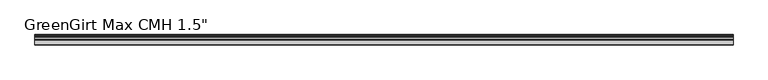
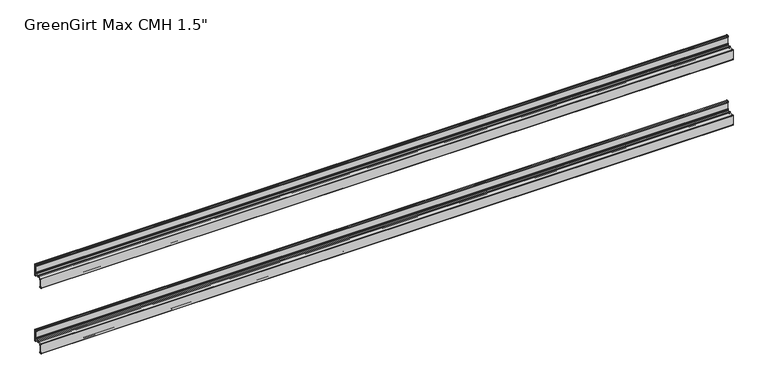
"""IFC4 building model written with IfcOpenShell, lengths in millimetres: fastener geometry."""

from ifc_helpers import new_model, si_unit, frame, origin, place, context, project, spatial, polyline, circle_curve, outline, extrude, source, transform, mapped, element, save
from ifc_brep_helpers import plane_surface, cylinder_surface, revolved_surface, advanced_brep


def fastener_09b3d739(model_context):
    return source(origin(), model_context, "Body", "SolidModel", [
        advanced_brep(
        [(2540.1186361, -3.556, 1390.269), (2540.1186361, -3.556, 1359.281), (2540.1186361, -5.2832, 1359.281), (2540.1186361, -5.2832, 1363.472), (2540.1186361, -7.3152, 1363.472), (2540.1186361, -7.3152, 1359.281), (2540.1186361, -8.0772, 1358.519), (2540.1186361, -17.7601563, 1358.519), (2540.1186361, -17.7601563, 1359.3674433), (2540.1186361, -20.4288947, 1359.3674433), (2540.1186361, -20.4288947, 1358.519), (2540.1186361, -37.3379766, 1358.519), (2540.1186361, -38.0999766, 1357.757), (2540.1186361, -38.1, 1321.5196758), (2540.1186361, -37.3379766, 1320.8), (2540.1186361, -33.7057766, 1320.8), (2540.1186361, -31.6737766, 1322.832), (2540.1186361, -31.6737766, 1325.118), (2540.1186361, -33.7057766, 1325.118), (2540.1186361, -33.7057766, 1324.102), (2540.1186361, -35.4329766, 1324.102), (2540.1186361, -35.4329766, 1355.09), (2540.1186361, -33.7057766, 1355.09), (2540.1186361, -33.7057766, 1350.899), (2540.1186361, -31.6737766, 1350.899), (2540.1186361, -31.6737766, 1355.09), (2540.1186361, -30.9117766, 1355.852), (2540.1186361, -20.4279799, 1355.852), (2540.1186361, -20.4279799, 1355.0030993), (2540.1186361, -17.7601563, 1355.0030993), (2540.1186361, -17.7601563, 1355.852), (2540.1186361, -3.429, 1355.852), (2540.1186361, -2.667, 1355.09), (2540.1186361, -2.667, 1348.994), (2540.1186361, 0.0, 1348.994), (2540.1186361, 0.0, 1392.809), (2540.1186361, -0.762, 1393.571), (2540.1186361, -5.2832, 1393.571), (2540.1186361, -7.3152, 1391.539), (2540.1186361, -7.3152, 1389.253), (2540.1186361, -5.2832, 1389.253), (2540.1186361, -5.2832, 1390.269), (0.0, -3.556, 1390.269), (0.0, -5.2832, 1390.269), (0.0, -5.2832, 1389.253), (0.0, -7.3152, 1389.253), (0.0, -7.3152, 1391.539), (0.0, -5.2832, 1393.571), (0.0, -0.762, 1393.571), (0.0, 0.0, 1392.809), (0.0, 0.0, 1348.994), (0.0, -2.667, 1348.994), (0.0, -2.667, 1355.09), (0.0, -3.429, 1355.852), (0.0, -17.7601563, 1355.852), (0.0, -17.7601563, 1355.0030993), (0.0, -20.4279799, 1355.0030993), (0.0, -20.4279799, 1355.852), (0.0, -30.9117766, 1355.852), (0.0, -31.6737766, 1355.09), (0.0, -31.6737766, 1350.899), (0.0, -33.7057766, 1350.899), (0.0, -33.7057766, 1355.09), (0.0, -35.4329766, 1355.09), (0.0, -35.4329766, 1324.102), (0.0, -33.7057766, 1324.102), (0.0, -33.7057766, 1325.118), (0.0, -31.6737766, 1325.118), (0.0, -31.6737766, 1322.832), (0.0, -33.7057766, 1320.8), (0.0, -37.3379766, 1320.8), (0.0, -38.0999766, 1321.562), (0.0, -38.1, 1357.6242174), (0.0, -37.3379766, 1358.519), (0.0, -20.4288947, 1358.519), (0.0, -20.4288947, 1359.3674433), (0.0, -17.7601563, 1359.3674433), (0.0, -17.7601563, 1358.519), (0.0, -8.0772, 1358.519), (0.0, -7.3152, 1359.281), (0.0, -7.3152, 1363.472), (0.0, -5.2832, 1363.472), (0.0, -5.2832, 1359.281), (0.0, -3.556, 1359.281)],
        [
            (0, 1),
            (1, 2, circle_curve(frame((2540.1186361, -4.4196, 1359.281), z_axis=(-1.0, 0.0, 0.0), x_axis=(0.0, 1.0, 0.0)), 0.8636)),
            (2, 3),
            (3, 4, circle_curve(frame((2540.1186361, -6.2992, 1363.472), z_axis=(1.0, 0.0, 0.0), x_axis=(0.0, 1.0, 0.0)), 1.016)),
            (4, 5),
            (5, 6, circle_curve(frame((2540.1186361, -8.0772, 1359.281), z_axis=(-1.0, 0.0, 0.0), x_axis=(0.0, 1.0, 0.0)), 0.762)),
            (6, 7),
            (7, 8),
            (8, 9, circle_curve(frame((2540.1186361, -19.0945255, 1359.3674433), z_axis=(1.0, 0.0, 0.0), x_axis=(0.0, 1.0, 0.0)), 1.3343692)),
            (9, 10),
            (10, 11),
            (11, 12, circle_curve(frame((2540.1186361, -37.3379766, 1357.757), z_axis=(1.0, 0.0, 0.0), x_axis=(0.0, 1.0, 0.0)), 0.762)),
            (12, 13),
            (13, 14, circle_curve(frame((2540.1186361, -37.3379766, 1321.562), z_axis=(1.0, 0.0, 0.0), x_axis=(0.0, 1.0, 0.0)), 0.762)),
            (14, 15),
            (15, 16, circle_curve(frame((2540.1186361, -33.7057766, 1322.832), z_axis=(1.0, 0.0, 0.0), x_axis=(0.0, 1.0, 0.0)), 2.032)),
            (16, 17),
            (17, 18, circle_curve(frame((2540.1186361, -32.6897766, 1325.118), z_axis=(1.0, 0.0, 0.0), x_axis=(0.0, 1.0, 0.0)), 1.016)),
            (18, 19),
            (19, 20, circle_curve(frame((2540.1186361, -34.5693766, 1324.102), z_axis=(-1.0, 0.0, 0.0), x_axis=(0.0, 1.0, 0.0)), 0.8636)),
            (20, 21),
            (21, 22, circle_curve(frame((2540.1186361, -34.5693766, 1355.09), z_axis=(-1.0, 0.0, 0.0), x_axis=(0.0, 1.0, 0.0)), 0.8636)),
            (22, 23),
            (23, 24, circle_curve(frame((2540.1186361, -32.6897766, 1350.899), z_axis=(1.0, 0.0, 0.0), x_axis=(0.0, 1.0, 0.0)), 1.016)),
            (24, 25),
            (25, 26, circle_curve(frame((2540.1186361, -30.9117766, 1355.09), z_axis=(-1.0, 0.0, 0.0), x_axis=(0.0, 1.0, 0.0)), 0.762)),
            (26, 27),
            (27, 28),
            (28, 29, circle_curve(frame((2540.1186361, -19.0940681, 1355.0030993), z_axis=(1.0, 0.0, 0.0), x_axis=(0.0, 1.0, 0.0)), 1.3339118)),
            (29, 30),
            (30, 31),
            (31, 32, circle_curve(frame((2540.1186361, -3.429, 1355.09), z_axis=(-1.0, 0.0, 0.0), x_axis=(0.0, 1.0, 0.0)), 0.762)),
            (32, 33),
            (33, 34, circle_curve(frame((2540.1186361, -1.3335, 1348.994), z_axis=(1.0, 0.0, 0.0), x_axis=(0.0, 1.0, 0.0)), 1.3335)),
            (34, 35),
            (35, 36, circle_curve(frame((2540.1186361, -0.762, 1392.809), z_axis=(1.0, 0.0, 0.0), x_axis=(0.0, 1.0, 0.0)), 0.762)),
            (36, 37),
            (37, 38, circle_curve(frame((2540.1186361, -5.2832, 1391.539), z_axis=(1.0, 0.0, 0.0), x_axis=(0.0, 1.0, 0.0)), 2.032)),
            (38, 39),
            (39, 40, circle_curve(frame((2540.1186361, -6.2992, 1389.253), z_axis=(1.0, 0.0, 0.0), x_axis=(0.0, 1.0, 0.0)), 1.016)),
            (40, 41),
            (41, 0, circle_curve(frame((2540.1186361, -4.4196, 1390.269), z_axis=(-1.0, 0.0, 0.0), x_axis=(0.0, 1.0, 0.0)), 0.8636)),
            (42, 43, circle_curve(frame((0.0, -4.4196, 1390.269), z_axis=(1.0, 0.0, 0.0), x_axis=(0.0, 1.0, 0.0)), 0.8636)),
            (43, 44),
            (44, 45, circle_curve(frame((0.0, -6.2992, 1389.253), z_axis=(-1.0, 0.0, 0.0), x_axis=(0.0, 1.0, 0.0)), 1.016)),
            (45, 46),
            (46, 47, circle_curve(frame((0.0, -5.2832, 1391.539), z_axis=(-1.0, 0.0, 0.0), x_axis=(0.0, 1.0, 0.0)), 2.032)),
            (47, 48),
            (48, 49, circle_curve(frame((0.0, -0.762, 1392.809), z_axis=(-1.0, 0.0, 0.0), x_axis=(0.0, 1.0, 0.0)), 0.762)),
            (49, 50),
            (50, 51, circle_curve(frame((0.0, -1.3335, 1348.994), z_axis=(-1.0, 0.0, 0.0), x_axis=(0.0, 1.0, 0.0)), 1.3335)),
            (51, 52),
            (52, 53, circle_curve(frame((0.0, -3.429, 1355.09), z_axis=(1.0, 0.0, 0.0), x_axis=(0.0, 1.0, 0.0)), 0.762)),
            (53, 54),
            (54, 55),
            (55, 56, circle_curve(frame((0.0, -19.0940681, 1355.0030993), z_axis=(-1.0, 0.0, 0.0), x_axis=(0.0, 1.0, 0.0)), 1.3339118)),
            (56, 57),
            (57, 58),
            (58, 59, circle_curve(frame((0.0, -30.9117766, 1355.09), z_axis=(1.0, 0.0, 0.0), x_axis=(0.0, 1.0, 0.0)), 0.762)),
            (59, 60),
            (60, 61, circle_curve(frame((0.0, -32.6897766, 1350.899), z_axis=(-1.0, 0.0, 0.0), x_axis=(0.0, 1.0, 0.0)), 1.016)),
            (61, 62),
            (62, 63, circle_curve(frame((0.0, -34.5693766, 1355.09), z_axis=(1.0, 0.0, 0.0), x_axis=(0.0, 1.0, 0.0)), 0.8636)),
            (63, 64),
            (64, 65, circle_curve(frame((0.0, -34.5693766, 1324.102), z_axis=(1.0, 0.0, 0.0), x_axis=(0.0, 1.0, 0.0)), 0.8636)),
            (65, 66),
            (66, 67, circle_curve(frame((0.0, -32.6897766, 1325.118), z_axis=(-1.0, 0.0, 0.0), x_axis=(0.0, 1.0, 0.0)), 1.016)),
            (67, 68),
            (68, 69, circle_curve(frame((0.0, -33.7057766, 1322.832), z_axis=(-1.0, 0.0, 0.0), x_axis=(0.0, 1.0, 0.0)), 2.032)),
            (69, 70),
            (70, 71, circle_curve(frame((0.0, -37.3379766, 1321.562), z_axis=(-1.0, 0.0, 0.0), x_axis=(0.0, 1.0, 0.0)), 0.762)),
            (71, 72),
            (72, 73, circle_curve(frame((0.0, -37.3379766, 1357.757), z_axis=(-1.0, 0.0, 0.0), x_axis=(0.0, 1.0, 0.0)), 0.762)),
            (73, 74),
            (74, 75),
            (75, 76, circle_curve(frame((0.0, -19.0945255, 1359.3674433), z_axis=(-1.0, 0.0, 0.0), x_axis=(0.0, 1.0, 0.0)), 1.3343692)),
            (76, 77),
            (77, 78),
            (78, 79, circle_curve(frame((0.0, -8.0772, 1359.281), z_axis=(1.0, 0.0, 0.0), x_axis=(0.0, 1.0, 0.0)), 0.762)),
            (79, 80),
            (80, 81, circle_curve(frame((0.0, -6.2992, 1363.472), z_axis=(-1.0, 0.0, 0.0), x_axis=(0.0, 1.0, 0.0)), 1.016)),
            (81, 82),
            (82, 83, circle_curve(frame((0.0, -4.4196, 1359.281), z_axis=(1.0, 0.0, 0.0), x_axis=(0.0, 1.0, 0.0)), 0.8636)),
            (83, 42),
            (0, 42),
            (83, 1),
            (82, 2),
            (81, 3),
            (80, 4),
            (79, 5),
            (78, 6),
            (77, 7),
            (76, 8),
            (75, 9),
            (74, 10),
            (73, 11),
            (72, 12),
            (71, 13),
            (70, 14),
            (69, 15),
            (68, 16),
            (67, 17),
            (66, 18),
            (65, 19),
            (64, 20),
            (63, 21),
            (62, 22),
            (61, 23),
            (60, 24),
            (59, 25),
            (58, 26),
            (57, 27),
            (56, 28),
            (55, 29),
            (54, 30),
            (53, 31),
            (52, 32),
            (51, 33),
            (50, 34),
            (49, 35),
            (48, 36),
            (47, 37),
            (46, 38),
            (45, 39),
            (44, 40),
            (43, 41),
        ],
        [
            plane_surface(frame((2540.1186361, -3.556, 1359.281), z_axis=(1.0, 0.0, 0.0), x_axis=(0.0, 0.0, -1.0))),
            plane_surface(frame((0.0, -3.556, 1359.281), z_axis=(-1.0, 0.0, 0.0), x_axis=(0.0, 0.0, 1.0))),
            plane_surface(frame((2540.1186361, -3.556, 1390.269), z_axis=(0.0, -1.0, 0.0), x_axis=(-1.0, 0.0, 0.0))),
            revolved_surface(polyline([(0.0, -3.556, 1359.281), (2540.1186361, -3.556, 1359.281)]), (0.0, -4.4196, 1359.281), (-1.0, 0.0, 0.0)),
            plane_surface(frame((2540.1186361, -5.2832, 1359.281), z_axis=(0.0, 1.0, 0.0), x_axis=(-1.0, 0.0, 0.0))),
            cylinder_surface(frame((0.0, -6.2992, 1363.472), z_axis=(1.0, 0.0, 0.0), x_axis=(0.0, 1.0, 0.0)), 1.016),
            plane_surface(frame((2540.1186361, -7.3152, 1363.472), z_axis=(0.0, -1.0, 0.0), x_axis=(-1.0, 0.0, 0.0))),
            revolved_surface(polyline([(0.0, -7.315199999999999, 1359.281), (2540.1186361, -7.315199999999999, 1359.281)]), (0.0, -8.0772, 1359.281), (-1.0, 0.0, 0.0)),
            plane_surface(frame((2540.1186361, -8.0772, 1358.519), z_axis=(0.0, 0.0, 1.0), x_axis=(-1.0, 0.0, 0.0))),
            plane_surface(frame((2540.1186361, -17.7601563, 1358.519), z_axis=(0.0, 1.0, 0.0), x_axis=(-1.0, 0.0, 0.0))),
            cylinder_surface(frame((0.0, -19.0945255, 1359.3674433), z_axis=(1.0, 0.0, 0.0), x_axis=(0.0, 1.0, 0.0)), 1.3343692),
            plane_surface(frame((2540.1186361, -20.4288947, 1359.3674433), z_axis=(0.0, -1.0, 0.0), x_axis=(-1.0, 0.0, 0.0))),
            plane_surface(frame((2540.1186361, -20.4288947, 1358.519), z_axis=(0.0, 0.0, 1.0), x_axis=(-1.0, 0.0, 0.0))),
            cylinder_surface(frame((0.0, -37.3379766, 1357.757), z_axis=(1.0, 0.0, 0.0), x_axis=(0.0, 1.0, 0.0)), 0.762),
            plane_surface(frame((2540.1186361, -38.1, 1357.6242174), z_axis=(0.0, -1.0, 0.0), x_axis=(-1.0, 0.0, 0.0))),
            cylinder_surface(frame((0.0, -37.3379766, 1321.562), z_axis=(1.0, 0.0, 0.0), x_axis=(0.0, 1.0, 0.0)), 0.762),
            plane_surface(frame((2540.1186361, -37.3379766, 1320.8), z_axis=(0.0, 1.080720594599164e-12, -1.0), x_axis=(-1.0, 0.0, 0.0))),
            cylinder_surface(frame((0.0, -33.7057766, 1322.832), z_axis=(1.0, 0.0, 0.0), x_axis=(0.0, 1.0, 0.0)), 2.032),
            plane_surface(frame((2540.1186361, -31.6737766, 1322.832), z_axis=(0.0, 1.0, 0.0), x_axis=(-1.0, 0.0, 0.0))),
            cylinder_surface(frame((0.0, -32.6897766, 1325.118), z_axis=(1.0, 0.0, 0.0), x_axis=(0.0, 1.0, 0.0)), 1.016),
            plane_surface(frame((2540.1186361, -33.7057766, 1325.118), z_axis=(0.0, -1.0, 0.0), x_axis=(-1.0, 0.0, 0.0))),
            revolved_surface(polyline([(0.0, -33.7057766, 1324.102), (2540.1186361, -33.7057766, 1324.102)]), (0.0, -34.5693766, 1324.102), (-1.0, 0.0, 0.0)),
            plane_surface(frame((2540.1186361, -35.4329766, 1324.102), z_axis=(0.0, 1.0, 0.0), x_axis=(-1.0, 0.0, 0.0))),
            revolved_surface(polyline([(0.0, -33.7057766, 1355.09), (2540.1186361, -33.7057766, 1355.09)]), (0.0, -34.5693766, 1355.09), (-1.0, 0.0, 0.0)),
            plane_surface(frame((2540.1186361, -33.7057766, 1355.09), z_axis=(0.0, -1.0, 0.0), x_axis=(-1.0, 0.0, 0.0))),
            cylinder_surface(frame((0.0, -32.6897766, 1350.899), z_axis=(1.0, 0.0, 0.0), x_axis=(0.0, 1.0, 0.0)), 1.016),
            plane_surface(frame((2540.1186361, -31.6737766, 1350.899), z_axis=(0.0, 1.0, 0.0), x_axis=(-1.0, 0.0, 0.0))),
            revolved_surface(polyline([(0.0, -30.1497766, 1355.09), (2540.1186361, -30.1497766, 1355.09)]), (0.0, -30.9117766, 1355.09), (-1.0, 0.0, 0.0)),
            plane_surface(frame((2540.1186361, -30.9117766, 1355.852), z_axis=(0.0, 0.0, -1.0), x_axis=(-1.0, 0.0, 0.0))),
            plane_surface(frame((2540.1186361, -20.4279799, 1355.852), z_axis=(0.0, -1.0, 0.0), x_axis=(-1.0, 0.0, 0.0))),
            cylinder_surface(frame((0.0, -19.0940681, 1355.0030993), z_axis=(1.0, 0.0, 0.0), x_axis=(0.0, 1.0, 0.0)), 1.3339118),
            plane_surface(frame((2540.1186361, -17.7601563, 1355.0030993), z_axis=(0.0, 1.0, 0.0), x_axis=(-1.0, 0.0, 0.0))),
            plane_surface(frame((2540.1186361, -17.7601563, 1355.852), z_axis=(0.0, 0.0, -1.0), x_axis=(-1.0, 0.0, 0.0))),
            revolved_surface(polyline([(0.0, -2.667, 1355.09), (2540.1186361, -2.667, 1355.09)]), (0.0, -3.429, 1355.09), (-1.0, 0.0, 0.0)),
            plane_surface(frame((2540.1186361, -2.667, 1355.09), z_axis=(0.0, -1.0, 0.0), x_axis=(-1.0, 0.0, 0.0))),
            cylinder_surface(frame((0.0, -1.3335, 1348.994), z_axis=(1.0, 0.0, 0.0), x_axis=(0.0, 1.0, 0.0)), 1.3335),
            plane_surface(frame((2540.1186361, 0.0, 1348.994), z_axis=(0.0, 1.0, 0.0), x_axis=(-1.0, 0.0, 0.0))),
            cylinder_surface(frame((0.0, -0.762, 1392.809), z_axis=(1.0, 0.0, 0.0), x_axis=(0.0, 1.0, 0.0)), 0.762),
            plane_surface(frame((2540.1186361, -0.762, 1393.571), z_axis=(0.0, 1.6915308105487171e-12, 1.0), x_axis=(-1.0, 0.0, 0.0))),
            cylinder_surface(frame((0.0, -5.2832, 1391.539), z_axis=(1.0, 0.0, 0.0), x_axis=(0.0, 1.0, 0.0)), 2.032),
            plane_surface(frame((2540.1186361, -7.3152, 1391.539), z_axis=(0.0, -1.0, 0.0), x_axis=(-1.0, 0.0, 0.0))),
            cylinder_surface(frame((0.0, -6.2992, 1389.253), z_axis=(1.0, 0.0, 0.0), x_axis=(0.0, 1.0, 0.0)), 1.016),
            plane_surface(frame((2540.1186361, -5.2832, 1389.253), z_axis=(0.0, 1.0, 0.0), x_axis=(-1.0, 0.0, 0.0))),
            revolved_surface(polyline([(0.0, -3.556, 1390.269), (2540.1186361, -3.556, 1390.269)]), (0.0, -4.4196, 1390.269), (-1.0, 0.0, 0.0)),
        ],
        [
            (0, [[1, 2, 3, 4, 5, 6, 7, 8, 9, 10, 11, 12, 13, 14, 15, 16, 17, 18, 19, 20, 21, 22, 23, 24, 25, 26, 27, 28, 29, 30, 31, 32, 33, 34, 35, 36, 37, 38, 39, 40, 41, 42]]),
            (1, [[43, 44, 45, 46, 47, 48, 49, 50, 51, 52, 53, 54, 55, 56, 57, 58, 59, 60, 61, 62, 63, 64, 65, 66, 67, 68, 69, 70, 71, 72, 73, 74, 75, 76, 77, 78, 79, 80, 81, 82, 83, 84]]),
            (2, [[-1, 85, -84, 86]]),
            (3, [[-2, -86, -83, 87]]),
            (4, [[-3, -87, -82, 88]]),
            (5, [[-4, -88, -81, 89]]),
            (6, [[-5, -89, -80, 90]]),
            (7, [[-6, -90, -79, 91]]),
            (8, [[-7, -91, -78, 92]]),
            (9, [[-8, -92, -77, 93]]),
            (10, [[-9, -93, -76, 94]]),
            (11, [[-10, -94, -75, 95]]),
            (12, [[-11, -95, -74, 96]]),
            (13, [[-12, -96, -73, 97]]),
            (14, [[-13, -97, -72, 98]]),
            (15, [[-14, -98, -71, 99]]),
            (16, [[-15, -99, -70, 100]]),
            (17, [[-16, -100, -69, 101]]),
            (18, [[-17, -101, -68, 102]]),
            (19, [[-18, -102, -67, 103]]),
            (20, [[-19, -103, -66, 104]]),
            (21, [[-20, -104, -65, 105]]),
            (22, [[-21, -105, -64, 106]]),
            (23, [[-22, -106, -63, 107]]),
            (24, [[-23, -107, -62, 108]]),
            (25, [[-24, -108, -61, 109]]),
            (26, [[-25, -109, -60, 110]]),
            (27, [[-26, -110, -59, 111]]),
            (28, [[-27, -111, -58, 112]]),
            (29, [[-28, -112, -57, 113]]),
            (30, [[-29, -113, -56, 114]]),
            (31, [[-30, -114, -55, 115]]),
            (32, [[-31, -115, -54, 116]]),
            (33, [[-32, -116, -53, 117]]),
            (34, [[-33, -117, -52, 118]]),
            (35, [[-34, -118, -51, 119]]),
            (36, [[-35, -119, -50, 120]]),
            (37, [[-36, -120, -49, 121]]),
            (38, [[-37, -121, -48, 122]]),
            (39, [[-38, -122, -47, 123]]),
            (40, [[-39, -123, -46, 124]]),
            (41, [[-40, -124, -45, 125]]),
            (42, [[-41, -125, -44, 126]]),
            (43, [[-42, -126, -43, -85]]),
        ],
    ),
        extrude(outline(polyline([(2540.1186361, -3.556), (2540.1186361, -5.2832), (0.0, -5.2832), (0.0, -3.556), (2540.1186361, -3.556)])), frame((0.0, 0.0, 1359.281), z_axis=(0.0, 0.0, 1.0), x_axis=(1.0, 0.0, 0.0)), (0.0, 0.0, 1.0), 30.988),
        extrude(outline(polyline([(2540.1186361, -33.7057766), (2540.1186361, -35.4329766), (0.0, -35.4329766), (0.0, -33.7057766), (2540.1186361, -33.7057766)])), frame((0.0, 0.0, 1324.102), z_axis=(0.0, 0.0, 1.0), x_axis=(1.0, 0.0, 0.0)), (0.0, 0.0, 1.0), 30.988),
        advanced_brep(
        [(2540.1186361, -3.556, 1136.269), (2540.1186361, -3.556, 1105.281), (2540.1186361, -5.2832, 1105.281), (2540.1186361, -5.2832, 1109.472), (2540.1186361, -7.3152, 1109.472), (2540.1186361, -7.3152, 1105.281), (2540.1186361, -8.0772, 1104.519), (2540.1186361, -17.7601563, 1104.519), (2540.1186361, -17.7601563, 1105.3674433), (2540.1186361, -20.4288947, 1105.3674433), (2540.1186361, -20.4288947, 1104.519), (2540.1186361, -37.3379766, 1104.519), (2540.1186361, -38.0999766, 1103.757), (2540.1186361, -38.1, 1067.5196758), (2540.1186361, -37.3379766, 1066.8), (2540.1186361, -33.7057766, 1066.8), (2540.1186361, -31.6737766, 1068.832), (2540.1186361, -31.6737766, 1071.118), (2540.1186361, -33.7057766, 1071.118), (2540.1186361, -33.7057766, 1070.102), (2540.1186361, -35.4329766, 1070.102), (2540.1186361, -35.4329766, 1101.09), (2540.1186361, -33.7057766, 1101.09), (2540.1186361, -33.7057766, 1096.899), (2540.1186361, -31.6737766, 1096.899), (2540.1186361, -31.6737766, 1101.09), (2540.1186361, -30.9117766, 1101.852), (2540.1186361, -20.4279799, 1101.852), (2540.1186361, -20.4279799, 1101.0030993), (2540.1186361, -17.7601563, 1101.0030993), (2540.1186361, -17.7601563, 1101.852), (2540.1186361, -3.429, 1101.852), (2540.1186361, -2.667, 1101.09), (2540.1186361, -2.667, 1094.994), (2540.1186361, 0.0, 1094.994), (2540.1186361, 0.0, 1138.809), (2540.1186361, -0.762, 1139.571), (2540.1186361, -5.2832, 1139.571), (2540.1186361, -7.3152, 1137.539), (2540.1186361, -7.3152, 1135.253), (2540.1186361, -5.2832, 1135.253), (2540.1186361, -5.2832, 1136.269), (0.0, -3.556, 1136.269), (0.0, -5.2832, 1136.269), (0.0, -5.2832, 1135.253), (0.0, -7.3152, 1135.253), (0.0, -7.3152, 1137.539), (0.0, -5.2832, 1139.571), (0.0, -0.762, 1139.571), (0.0, 0.0, 1138.809), (0.0, 0.0, 1094.994), (0.0, -2.667, 1094.994), (0.0, -2.667, 1101.09), (0.0, -3.429, 1101.852), (0.0, -17.7601563, 1101.852), (0.0, -17.7601563, 1101.0030993), (0.0, -20.4279799, 1101.0030993), (0.0, -20.4279799, 1101.852), (0.0, -30.9117766, 1101.852), (0.0, -31.6737766, 1101.09), (0.0, -31.6737766, 1096.899), (0.0, -33.7057766, 1096.899), (0.0, -33.7057766, 1101.09), (0.0, -35.4329766, 1101.09), (0.0, -35.4329766, 1070.102), (0.0, -33.7057766, 1070.102), (0.0, -33.7057766, 1071.118), (0.0, -31.6737766, 1071.118), (0.0, -31.6737766, 1068.832), (0.0, -33.7057766, 1066.8), (0.0, -37.3379766, 1066.8), (0.0, -38.0999766, 1067.562), (0.0, -38.1, 1103.6242174), (0.0, -37.3379766, 1104.519), (0.0, -20.4288947, 1104.519), (0.0, -20.4288947, 1105.3674433), (0.0, -17.7601563, 1105.3674433), (0.0, -17.7601563, 1104.519), (0.0, -8.0772, 1104.519), (0.0, -7.3152, 1105.281), (0.0, -7.3152, 1109.472), (0.0, -5.2832, 1109.472), (0.0, -5.2832, 1105.281), (0.0, -3.556, 1105.281)],
        [
            (0, 1),
            (1, 2, circle_curve(frame((2540.1186361, -4.4196, 1105.281), z_axis=(-1.0, 0.0, 0.0), x_axis=(0.0, 1.0, 0.0)), 0.8636)),
            (2, 3),
            (3, 4, circle_curve(frame((2540.1186361, -6.2992, 1109.472), z_axis=(1.0, 0.0, 0.0), x_axis=(0.0, 1.0, 0.0)), 1.016)),
            (4, 5),
            (5, 6, circle_curve(frame((2540.1186361, -8.0772, 1105.281), z_axis=(-1.0, 0.0, 0.0), x_axis=(0.0, 1.0, 0.0)), 0.762)),
            (6, 7),
            (7, 8),
            (8, 9, circle_curve(frame((2540.1186361, -19.0945255, 1105.3674433), z_axis=(1.0, 0.0, 0.0), x_axis=(0.0, 1.0, 0.0)), 1.3343692)),
            (9, 10),
            (10, 11),
            (11, 12, circle_curve(frame((2540.1186361, -37.3379766, 1103.757), z_axis=(1.0, 0.0, 0.0), x_axis=(0.0, 1.0, 0.0)), 0.762)),
            (12, 13),
            (13, 14, circle_curve(frame((2540.1186361, -37.3379766, 1067.562), z_axis=(1.0, 0.0, 0.0), x_axis=(0.0, 1.0, 0.0)), 0.762)),
            (14, 15),
            (15, 16, circle_curve(frame((2540.1186361, -33.7057766, 1068.832), z_axis=(1.0, 0.0, 0.0), x_axis=(0.0, 1.0, 0.0)), 2.032)),
            (16, 17),
            (17, 18, circle_curve(frame((2540.1186361, -32.6897766, 1071.118), z_axis=(1.0, 0.0, 0.0), x_axis=(0.0, 1.0, 0.0)), 1.016)),
            (18, 19),
            (19, 20, circle_curve(frame((2540.1186361, -34.5693766, 1070.102), z_axis=(-1.0, 0.0, 0.0), x_axis=(0.0, 1.0, 0.0)), 0.8636)),
            (20, 21),
            (21, 22, circle_curve(frame((2540.1186361, -34.5693766, 1101.09), z_axis=(-1.0, 0.0, 0.0), x_axis=(0.0, 1.0, 0.0)), 0.8636)),
            (22, 23),
            (23, 24, circle_curve(frame((2540.1186361, -32.6897766, 1096.899), z_axis=(1.0, 0.0, 0.0), x_axis=(0.0, 1.0, 0.0)), 1.016)),
            (24, 25),
            (25, 26, circle_curve(frame((2540.1186361, -30.9117766, 1101.09), z_axis=(-1.0, 0.0, 0.0), x_axis=(0.0, 1.0, 0.0)), 0.762)),
            (26, 27),
            (27, 28),
            (28, 29, circle_curve(frame((2540.1186361, -19.0940681, 1101.0030993), z_axis=(1.0, 0.0, 0.0), x_axis=(0.0, 1.0, 0.0)), 1.3339118)),
            (29, 30),
            (30, 31),
            (31, 32, circle_curve(frame((2540.1186361, -3.429, 1101.09), z_axis=(-1.0, 0.0, 0.0), x_axis=(0.0, 1.0, 0.0)), 0.762)),
            (32, 33),
            (33, 34, circle_curve(frame((2540.1186361, -1.3335, 1094.994), z_axis=(1.0, 0.0, 0.0), x_axis=(0.0, 1.0, 0.0)), 1.3335)),
            (34, 35),
            (35, 36, circle_curve(frame((2540.1186361, -0.762, 1138.809), z_axis=(1.0, 0.0, 0.0), x_axis=(0.0, 1.0, 0.0)), 0.762)),
            (36, 37),
            (37, 38, circle_curve(frame((2540.1186361, -5.2832, 1137.539), z_axis=(1.0, 0.0, 0.0), x_axis=(0.0, 1.0, 0.0)), 2.032)),
            (38, 39),
            (39, 40, circle_curve(frame((2540.1186361, -6.2992, 1135.253), z_axis=(1.0, 0.0, 0.0), x_axis=(0.0, 1.0, 0.0)), 1.016)),
            (40, 41),
            (41, 0, circle_curve(frame((2540.1186361, -4.4196, 1136.269), z_axis=(-1.0, 0.0, 0.0), x_axis=(0.0, 1.0, 0.0)), 0.8636)),
            (42, 43, circle_curve(frame((0.0, -4.4196, 1136.269), z_axis=(1.0, 0.0, 0.0), x_axis=(0.0, 1.0, 0.0)), 0.8636)),
            (43, 44),
            (44, 45, circle_curve(frame((0.0, -6.2992, 1135.253), z_axis=(-1.0, 0.0, 0.0), x_axis=(0.0, 1.0, 0.0)), 1.016)),
            (45, 46),
            (46, 47, circle_curve(frame((0.0, -5.2832, 1137.539), z_axis=(-1.0, 0.0, 0.0), x_axis=(0.0, 1.0, 0.0)), 2.032)),
            (47, 48),
            (48, 49, circle_curve(frame((0.0, -0.762, 1138.809), z_axis=(-1.0, 0.0, 0.0), x_axis=(0.0, 1.0, 0.0)), 0.762)),
            (49, 50),
            (50, 51, circle_curve(frame((0.0, -1.3335, 1094.994), z_axis=(-1.0, 0.0, 0.0), x_axis=(0.0, 1.0, 0.0)), 1.3335)),
            (51, 52),
            (52, 53, circle_curve(frame((0.0, -3.429, 1101.09), z_axis=(1.0, 0.0, 0.0), x_axis=(0.0, 1.0, 0.0)), 0.762)),
            (53, 54),
            (54, 55),
            (55, 56, circle_curve(frame((0.0, -19.0940681, 1101.0030993), z_axis=(-1.0, 0.0, 0.0), x_axis=(0.0, 1.0, 0.0)), 1.3339118)),
            (56, 57),
            (57, 58),
            (58, 59, circle_curve(frame((0.0, -30.9117766, 1101.09), z_axis=(1.0, 0.0, 0.0), x_axis=(0.0, 1.0, 0.0)), 0.762)),
            (59, 60),
            (60, 61, circle_curve(frame((0.0, -32.6897766, 1096.899), z_axis=(-1.0, 0.0, 0.0), x_axis=(0.0, 1.0, 0.0)), 1.016)),
            (61, 62),
            (62, 63, circle_curve(frame((0.0, -34.5693766, 1101.09), z_axis=(1.0, 0.0, 0.0), x_axis=(0.0, 1.0, 0.0)), 0.8636)),
            (63, 64),
            (64, 65, circle_curve(frame((0.0, -34.5693766, 1070.102), z_axis=(1.0, 0.0, 0.0), x_axis=(0.0, 1.0, 0.0)), 0.8636)),
            (65, 66),
            (66, 67, circle_curve(frame((0.0, -32.6897766, 1071.118), z_axis=(-1.0, 0.0, 0.0), x_axis=(0.0, 1.0, 0.0)), 1.016)),
            (67, 68),
            (68, 69, circle_curve(frame((0.0, -33.7057766, 1068.832), z_axis=(-1.0, 0.0, 0.0), x_axis=(0.0, 1.0, 0.0)), 2.032)),
            (69, 70),
            (70, 71, circle_curve(frame((0.0, -37.3379766, 1067.562), z_axis=(-1.0, 0.0, 0.0), x_axis=(0.0, 1.0, 0.0)), 0.762)),
            (71, 72),
            (72, 73, circle_curve(frame((0.0, -37.3379766, 1103.757), z_axis=(-1.0, 0.0, 0.0), x_axis=(0.0, 1.0, 0.0)), 0.762)),
            (73, 74),
            (74, 75),
            (75, 76, circle_curve(frame((0.0, -19.0945255, 1105.3674433), z_axis=(-1.0, 0.0, 0.0), x_axis=(0.0, 1.0, 0.0)), 1.3343692)),
            (76, 77),
            (77, 78),
            (78, 79, circle_curve(frame((0.0, -8.0772, 1105.281), z_axis=(1.0, 0.0, 0.0), x_axis=(0.0, 1.0, 0.0)), 0.762)),
            (79, 80),
            (80, 81, circle_curve(frame((0.0, -6.2992, 1109.472), z_axis=(-1.0, 0.0, 0.0), x_axis=(0.0, 1.0, 0.0)), 1.016)),
            (81, 82),
            (82, 83, circle_curve(frame((0.0, -4.4196, 1105.281), z_axis=(1.0, 0.0, 0.0), x_axis=(0.0, 1.0, 0.0)), 0.8636)),
            (83, 42),
            (0, 42),
            (83, 1),
            (82, 2),
            (81, 3),
            (80, 4),
            (79, 5),
            (78, 6),
            (77, 7),
            (76, 8),
            (75, 9),
            (74, 10),
            (73, 11),
            (72, 12),
            (71, 13),
            (70, 14),
            (69, 15),
            (68, 16),
            (67, 17),
            (66, 18),
            (65, 19),
            (64, 20),
            (63, 21),
            (62, 22),
            (61, 23),
            (60, 24),
            (59, 25),
            (58, 26),
            (57, 27),
            (56, 28),
            (55, 29),
            (54, 30),
            (53, 31),
            (52, 32),
            (51, 33),
            (50, 34),
            (49, 35),
            (48, 36),
            (47, 37),
            (46, 38),
            (45, 39),
            (44, 40),
            (43, 41),
        ],
        [
            plane_surface(frame((2540.1186361, -3.556, 1105.281), z_axis=(1.0, 0.0, 0.0), x_axis=(0.0, 0.0, -1.0))),
            plane_surface(frame((0.0, -3.556, 1105.281), z_axis=(-1.0, 0.0, 0.0), x_axis=(0.0, 0.0, 1.0))),
            plane_surface(frame((2540.1186361, -3.556, 1136.269), z_axis=(0.0, -1.0, 0.0), x_axis=(-1.0, 0.0, 0.0))),
            revolved_surface(polyline([(0.0, -3.556, 1105.281), (2540.1186361, -3.556, 1105.281)]), (0.0, -4.4196, 1105.281), (-1.0, 0.0, 0.0)),
            plane_surface(frame((2540.1186361, -5.2832, 1105.281), z_axis=(0.0, 1.0, 0.0), x_axis=(-1.0, 0.0, 0.0))),
            cylinder_surface(frame((0.0, -6.2992, 1109.472), z_axis=(1.0, 0.0, 0.0), x_axis=(0.0, 1.0, 0.0)), 1.016),
            plane_surface(frame((2540.1186361, -7.3152, 1109.472), z_axis=(0.0, -1.0, 0.0), x_axis=(-1.0, 0.0, 0.0))),
            revolved_surface(polyline([(0.0, -7.315199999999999, 1105.281), (2540.1186361, -7.315199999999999, 1105.281)]), (0.0, -8.0772, 1105.281), (-1.0, 0.0, 0.0)),
            plane_surface(frame((2540.1186361, -8.0772, 1104.519), z_axis=(0.0, 0.0, 1.0), x_axis=(-1.0, 0.0, 0.0))),
            plane_surface(frame((2540.1186361, -17.7601563, 1104.519), z_axis=(0.0, 1.0, 0.0), x_axis=(-1.0, 0.0, 0.0))),
            cylinder_surface(frame((0.0, -19.0945255, 1105.3674433), z_axis=(1.0, 0.0, 0.0), x_axis=(0.0, 1.0, 0.0)), 1.3343692),
            plane_surface(frame((2540.1186361, -20.4288947, 1105.3674433), z_axis=(0.0, -1.0, 0.0), x_axis=(-1.0, 0.0, 0.0))),
            plane_surface(frame((2540.1186361, -20.4288947, 1104.519), z_axis=(0.0, 0.0, 1.0), x_axis=(-1.0, 0.0, 0.0))),
            cylinder_surface(frame((0.0, -37.3379766, 1103.757), z_axis=(1.0, 0.0, 0.0), x_axis=(0.0, 1.0, 0.0)), 0.762),
            plane_surface(frame((2540.1186361, -38.1, 1103.6242174), z_axis=(0.0, -1.0, 0.0), x_axis=(-1.0, 0.0, 0.0))),
            cylinder_surface(frame((0.0, -37.3379766, 1067.562), z_axis=(1.0, 0.0, 0.0), x_axis=(0.0, 1.0, 0.0)), 0.762),
            plane_surface(frame((2540.1186361, -37.3379766, 1066.8), z_axis=(0.0, 1.080720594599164e-12, -1.0), x_axis=(-1.0, 0.0, 0.0))),
            cylinder_surface(frame((0.0, -33.7057766, 1068.832), z_axis=(1.0, 0.0, 0.0), x_axis=(0.0, 1.0, 0.0)), 2.032),
            plane_surface(frame((2540.1186361, -31.6737766, 1068.832), z_axis=(0.0, 1.0, 0.0), x_axis=(-1.0, 0.0, 0.0))),
            cylinder_surface(frame((0.0, -32.6897766, 1071.118), z_axis=(1.0, 0.0, 0.0), x_axis=(0.0, 1.0, 0.0)), 1.016),
            plane_surface(frame((2540.1186361, -33.7057766, 1071.118), z_axis=(0.0, -1.0, 0.0), x_axis=(-1.0, 0.0, 0.0))),
            revolved_surface(polyline([(0.0, -33.7057766, 1070.102), (2540.1186361, -33.7057766, 1070.102)]), (0.0, -34.5693766, 1070.102), (-1.0, 0.0, 0.0)),
            plane_surface(frame((2540.1186361, -35.4329766, 1070.102), z_axis=(0.0, 1.0, 0.0), x_axis=(-1.0, 0.0, 0.0))),
            revolved_surface(polyline([(0.0, -33.7057766, 1101.09), (2540.1186361, -33.7057766, 1101.09)]), (0.0, -34.5693766, 1101.09), (-1.0, 0.0, 0.0)),
            plane_surface(frame((2540.1186361, -33.7057766, 1101.09), z_axis=(0.0, -1.0, 0.0), x_axis=(-1.0, 0.0, 0.0))),
            cylinder_surface(frame((0.0, -32.6897766, 1096.899), z_axis=(1.0, 0.0, 0.0), x_axis=(0.0, 1.0, 0.0)), 1.016),
            plane_surface(frame((2540.1186361, -31.6737766, 1096.899), z_axis=(0.0, 1.0, 0.0), x_axis=(-1.0, 0.0, 0.0))),
            revolved_surface(polyline([(0.0, -30.1497766, 1101.09), (2540.1186361, -30.1497766, 1101.09)]), (0.0, -30.9117766, 1101.09), (-1.0, 0.0, 0.0)),
            plane_surface(frame((2540.1186361, -30.9117766, 1101.852), z_axis=(0.0, 0.0, -1.0), x_axis=(-1.0, 0.0, 0.0))),
            plane_surface(frame((2540.1186361, -20.4279799, 1101.852), z_axis=(0.0, -1.0, 0.0), x_axis=(-1.0, 0.0, 0.0))),
            cylinder_surface(frame((0.0, -19.0940681, 1101.0030993), z_axis=(1.0, 0.0, 0.0), x_axis=(0.0, 1.0, 0.0)), 1.3339118),
            plane_surface(frame((2540.1186361, -17.7601563, 1101.0030993), z_axis=(0.0, 1.0, 0.0), x_axis=(-1.0, 0.0, 0.0))),
            plane_surface(frame((2540.1186361, -17.7601563, 1101.852), z_axis=(0.0, 0.0, -1.0), x_axis=(-1.0, 0.0, 0.0))),
            revolved_surface(polyline([(0.0, -2.667, 1101.09), (2540.1186361, -2.667, 1101.09)]), (0.0, -3.429, 1101.09), (-1.0, 0.0, 0.0)),
            plane_surface(frame((2540.1186361, -2.667, 1101.09), z_axis=(0.0, -1.0, 0.0), x_axis=(-1.0, 0.0, 0.0))),
            cylinder_surface(frame((0.0, -1.3335, 1094.994), z_axis=(1.0, 0.0, 0.0), x_axis=(0.0, 1.0, 0.0)), 1.3335),
            plane_surface(frame((2540.1186361, 0.0, 1094.994), z_axis=(0.0, 1.0, 0.0), x_axis=(-1.0, 0.0, 0.0))),
            cylinder_surface(frame((0.0, -0.762, 1138.809), z_axis=(1.0, 0.0, 0.0), x_axis=(0.0, 1.0, 0.0)), 0.762),
            plane_surface(frame((2540.1186361, -0.762, 1139.571), z_axis=(0.0, 1.6915308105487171e-12, 1.0), x_axis=(-1.0, 0.0, 0.0))),
            cylinder_surface(frame((0.0, -5.2832, 1137.539), z_axis=(1.0, 0.0, 0.0), x_axis=(0.0, 1.0, 0.0)), 2.032),
            plane_surface(frame((2540.1186361, -7.3152, 1137.539), z_axis=(0.0, -1.0, 0.0), x_axis=(-1.0, 0.0, 0.0))),
            cylinder_surface(frame((0.0, -6.2992, 1135.253), z_axis=(1.0, 0.0, 0.0), x_axis=(0.0, 1.0, 0.0)), 1.016),
            plane_surface(frame((2540.1186361, -5.2832, 1135.253), z_axis=(0.0, 1.0, 0.0), x_axis=(-1.0, 0.0, 0.0))),
            revolved_surface(polyline([(0.0, -3.556, 1136.269), (2540.1186361, -3.556, 1136.269)]), (0.0, -4.4196, 1136.269), (-1.0, 0.0, 0.0)),
        ],
        [
            (0, [[1, 2, 3, 4, 5, 6, 7, 8, 9, 10, 11, 12, 13, 14, 15, 16, 17, 18, 19, 20, 21, 22, 23, 24, 25, 26, 27, 28, 29, 30, 31, 32, 33, 34, 35, 36, 37, 38, 39, 40, 41, 42]]),
            (1, [[43, 44, 45, 46, 47, 48, 49, 50, 51, 52, 53, 54, 55, 56, 57, 58, 59, 60, 61, 62, 63, 64, 65, 66, 67, 68, 69, 70, 71, 72, 73, 74, 75, 76, 77, 78, 79, 80, 81, 82, 83, 84]]),
            (2, [[-1, 85, -84, 86]]),
            (3, [[-2, -86, -83, 87]]),
            (4, [[-3, -87, -82, 88]]),
            (5, [[-4, -88, -81, 89]]),
            (6, [[-5, -89, -80, 90]]),
            (7, [[-6, -90, -79, 91]]),
            (8, [[-7, -91, -78, 92]]),
            (9, [[-8, -92, -77, 93]]),
            (10, [[-9, -93, -76, 94]]),
            (11, [[-10, -94, -75, 95]]),
            (12, [[-11, -95, -74, 96]]),
            (13, [[-12, -96, -73, 97]]),
            (14, [[-13, -97, -72, 98]]),
            (15, [[-14, -98, -71, 99]]),
            (16, [[-15, -99, -70, 100]]),
            (17, [[-16, -100, -69, 101]]),
            (18, [[-17, -101, -68, 102]]),
            (19, [[-18, -102, -67, 103]]),
            (20, [[-19, -103, -66, 104]]),
            (21, [[-20, -104, -65, 105]]),
            (22, [[-21, -105, -64, 106]]),
            (23, [[-22, -106, -63, 107]]),
            (24, [[-23, -107, -62, 108]]),
            (25, [[-24, -108, -61, 109]]),
            (26, [[-25, -109, -60, 110]]),
            (27, [[-26, -110, -59, 111]]),
            (28, [[-27, -111, -58, 112]]),
            (29, [[-28, -112, -57, 113]]),
            (30, [[-29, -113, -56, 114]]),
            (31, [[-30, -114, -55, 115]]),
            (32, [[-31, -115, -54, 116]]),
            (33, [[-32, -116, -53, 117]]),
            (34, [[-33, -117, -52, 118]]),
            (35, [[-34, -118, -51, 119]]),
            (36, [[-35, -119, -50, 120]]),
            (37, [[-36, -120, -49, 121]]),
            (38, [[-37, -121, -48, 122]]),
            (39, [[-38, -122, -47, 123]]),
            (40, [[-39, -123, -46, 124]]),
            (41, [[-40, -124, -45, 125]]),
            (42, [[-41, -125, -44, 126]]),
            (43, [[-42, -126, -43, -85]]),
        ],
    ),
        extrude(outline(polyline([(2540.1186361, -3.556), (2540.1186361, -5.2832), (0.0, -5.2832), (0.0, -3.556), (2540.1186361, -3.556)])), frame((0.0, 0.0, 1105.281), z_axis=(0.0, 0.0, 1.0), x_axis=(1.0, 0.0, 0.0)), (0.0, 0.0, 1.0), 30.988),
        extrude(outline(polyline([(2540.1186361, -33.7057766), (2540.1186361, -35.4329766), (0.0, -35.4329766), (0.0, -33.7057766), (2540.1186361, -33.7057766)])), frame((0.0, 0.0, 1070.102), z_axis=(0.0, 0.0, 1.0), x_axis=(1.0, 0.0, 0.0)), (0.0, 0.0, 1.0), 30.988),
    ])


if __name__ == "__main__":
    model = new_model("IFC4")
    model_context = context("Model", 3, world=origin())
    ifc_project = project(units=[si_unit("LENGTHUNIT", "METRE", prefix="MILLI")], contexts=[model_context])
    site = spatial("IfcSite", under=ifc_project)
    building = spatial("IfcBuilding", under=site)
    placement = place(None, origin())
    fastener_shape = fastener_09b3d739(model_context)
    element("IfcFastener", 1, ObjectType="Structural-Supporting-Components_Advanced-Architectural-Products_GreenGirt-Max-CMH-System : GreenGirt Max CMH 1.5\"", at=placement, inside=building, context=model_context, shape_type="MappedRepresentation", body=[
        mapped(fastener_shape, transform((0.0, 0.0, 0.0), x_axis=(1.0, 0.0, 0.0), y_axis=(0.0, 1.0, 0.0), z_axis=(0.0, 0.0, 1.0))),
    ])
    save(model, "model.ifc")
